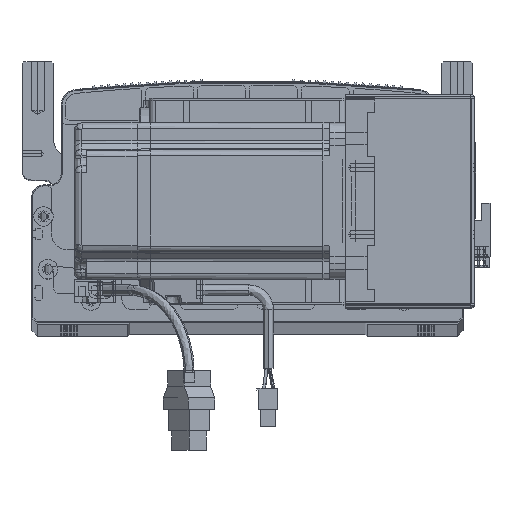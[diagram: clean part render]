
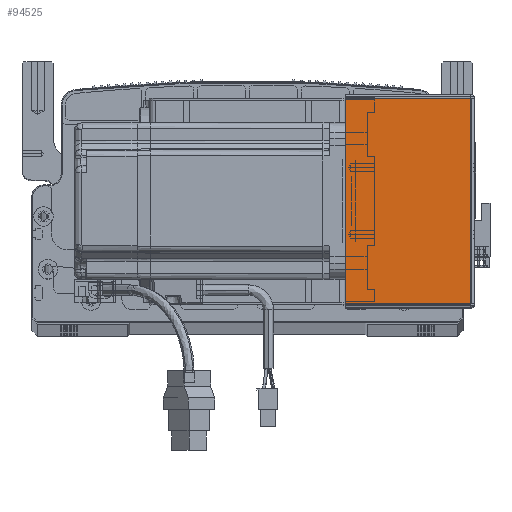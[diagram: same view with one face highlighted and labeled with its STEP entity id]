
A CAD part, top view. The second image highlights one B-rep face of the part: STEP entity #94525.
In plain terms, the highlighted planar face has unit normal (0, 0, 1) as drawn and (0, 0, -1) by its records, which use the part's own axes.
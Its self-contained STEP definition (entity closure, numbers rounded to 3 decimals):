
#1944 = LINE ( 'NONE', #72270, #77835 ) ;
#12639 = ORIENTED_EDGE ( 'NONE', *, *, #28570, .F. ) ;
#14599 = CARTESIAN_POINT ( 'NONE',  ( 64.5, 0., -205.5 ) ) ;
#16243 = CARTESIAN_POINT ( 'NONE',  ( 0.737, 0.707, -205.5 ) ) ;
#16370 = ORIENTED_EDGE ( 'NONE', *, *, #96484, .F. ) ;
#17407 = LINE ( 'NONE', #14599, #64743 ) ;
#25614 = ORIENTED_EDGE ( 'NONE', *, *, #53345, .T. ) ;
#27783 = CARTESIAN_POINT ( 'NONE',  ( 64.5, 0.707, -205.5 ) ) ;
#27807 = DIRECTION ( 'NONE',  ( 0., -1., 0. ) ) ;
#28570 = EDGE_CURVE ( 'NONE', #40359, #78651, #1944, .T. ) ;
#29035 = CARTESIAN_POINT ( 'NONE',  ( 0., 0., -205.5 ) ) ;
#36169 = CARTESIAN_POINT ( 'NONE',  ( 0.737, 0., -205.5 ) ) ;
#37171 = VECTOR ( 'NONE', #27807, 1000. ) ;
#40359 = VERTEX_POINT ( 'NONE', #16243 ) ;
#42073 = VERTEX_POINT ( 'NONE', #44053 ) ;
#44053 = CARTESIAN_POINT ( 'NONE',  ( 0.737, 105.293, -205.5 ) ) ;
#44391 = DIRECTION ( 'NONE',  ( 1., 0., 0. ) ) ;
#44767 = EDGE_LOOP ( 'NONE', ( #16370, #25614, #77060, #12639 ) ) ;
#47053 = DIRECTION ( 'NONE',  ( 0., -1., 0. ) ) ;
#53345 = EDGE_CURVE ( 'NONE', #42073, #68859, #84627, .T. ) ;
#53653 = EDGE_CURVE ( 'NONE', #68859, #78651, #17407, .T. ) ;
#59273 = PLANE ( 'NONE',  #101504 ) ;
#59563 = DIRECTION ( 'NONE',  ( 1., 0., 0. ) ) ;
#64743 = VECTOR ( 'NONE', #47053, 1000. ) ;
#68859 = VERTEX_POINT ( 'NONE', #92926 ) ;
#72270 = CARTESIAN_POINT ( 'NONE',  ( 0., 0.707, -205.5 ) ) ;
#75287 = DIRECTION ( 'NONE',  ( 0., 0., 1. ) ) ;
#77060 = ORIENTED_EDGE ( 'NONE', *, *, #53653, .T. ) ;
#77835 = VECTOR ( 'NONE', #80543, 1000. ) ;
#78469 = VECTOR ( 'NONE', #59563, 1000. ) ;
#78651 = VERTEX_POINT ( 'NONE', #27783 ) ;
#80543 = DIRECTION ( 'NONE',  ( 1., 0., 0. ) ) ;
#81940 = LINE ( 'NONE', #36169, #37171 ) ;
#84627 = LINE ( 'NONE', #98257, #78469 ) ;
#92926 = CARTESIAN_POINT ( 'NONE',  ( 64.5, 105.293, -205.5 ) ) ;
#93510 = FACE_OUTER_BOUND ( 'NONE', #44767, .T. ) ;
#94525 = ADVANCED_FACE ( 'NONE', ( #93510 ), #59273, .F. ) ;
#96484 = EDGE_CURVE ( 'NONE', #42073, #40359, #81940, .T. ) ;
#98257 = CARTESIAN_POINT ( 'NONE',  ( 0., 105.293, -205.5 ) ) ;
#101504 = AXIS2_PLACEMENT_3D ( 'NONE', #29035, #75287, #44391 ) ;
